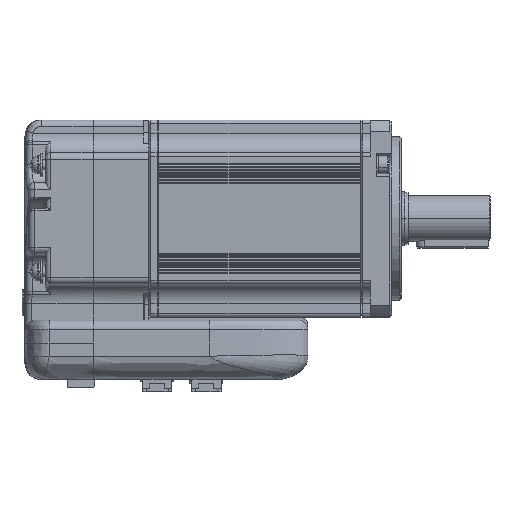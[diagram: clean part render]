
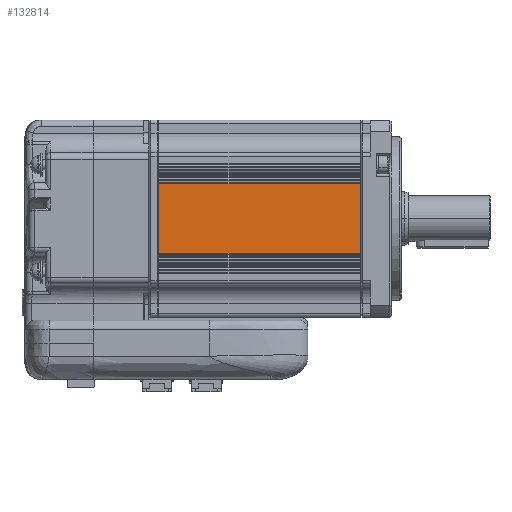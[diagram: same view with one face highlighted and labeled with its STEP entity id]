
A CAD part, top view. The second image highlights one B-rep face of the part: STEP entity #132814.
In plain terms, the highlighted planar face has unit normal (0, 0, 1) as drawn and (1, 0, 0) by its records, which use the part's own axes.
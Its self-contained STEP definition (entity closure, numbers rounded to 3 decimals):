
#129550=DIRECTION('',(0.,-1.,0.));
#129551=VECTOR('',#129550,21.4);
#129552=CARTESIAN_POINT('',(1701.17,-352.463,-71.));
#129553=LINE('',#129552,#129551);
#130613=DIRECTION('',(0.,-1.,0.));
#130614=VECTOR('',#130613,21.4);
#130615=CARTESIAN_POINT('',(1701.17,-352.463,-9.5));
#130616=LINE('',#130615,#130614);
#130621=DIRECTION('',(0.,0.,1.));
#130622=VECTOR('',#130621,61.5);
#130623=CARTESIAN_POINT('',(1701.17,-373.863,-71.));
#130624=LINE('',#130623,#130622);
#130957=DIRECTION('',(0.,0.,-1.));
#130958=VECTOR('',#130957,61.5);
#130959=CARTESIAN_POINT('',(1701.17,-352.463,-9.5));
#130960=LINE('',#130959,#130958);
#131399=CARTESIAN_POINT('',(1701.17,-352.463,-9.5));
#131400=CARTESIAN_POINT('',(1701.17,-373.863,-9.5));
#131401=VERTEX_POINT('',#131399);
#131402=VERTEX_POINT('',#131400);
#131719=CARTESIAN_POINT('',(1701.17,-352.463,-71.));
#131720=VERTEX_POINT('',#131719);
#131779=CARTESIAN_POINT('',(1701.17,-373.863,-71.));
#131781=VERTEX_POINT('',#131779);
#132801=CARTESIAN_POINT('',(1701.17,-344.163,-9.5));
#132802=DIRECTION('',(-1.,0.,0.));
#132803=DIRECTION('',(0.,0.,1.));
#132804=AXIS2_PLACEMENT_3D('',#132801,#132802,#132803);
#132805=PLANE('',#132804);
#132806=ORIENTED_EDGE('',*,*,#132377,.T.);
#132808=ORIENTED_EDGE('',*,*,#132807,.T.);
#132809=ORIENTED_EDGE('',*,*,#132458,.F.);
#132811=ORIENTED_EDGE('',*,*,#132810,.T.);
#132812=EDGE_LOOP('',(#132806,#132808,#132809,#132811));
#132813=FACE_OUTER_BOUND('',#132812,.F.);
#132814=ADVANCED_FACE('',(#132813),#132805,.F.);
#132377=EDGE_CURVE('',#131720,#131781,#129553,.T.);
#132458=EDGE_CURVE('',#131401,#131402,#130616,.T.);
#132807=EDGE_CURVE('',#131781,#131402,#130624,.T.);
#132810=EDGE_CURVE('',#131401,#131720,#130960,.T.);
